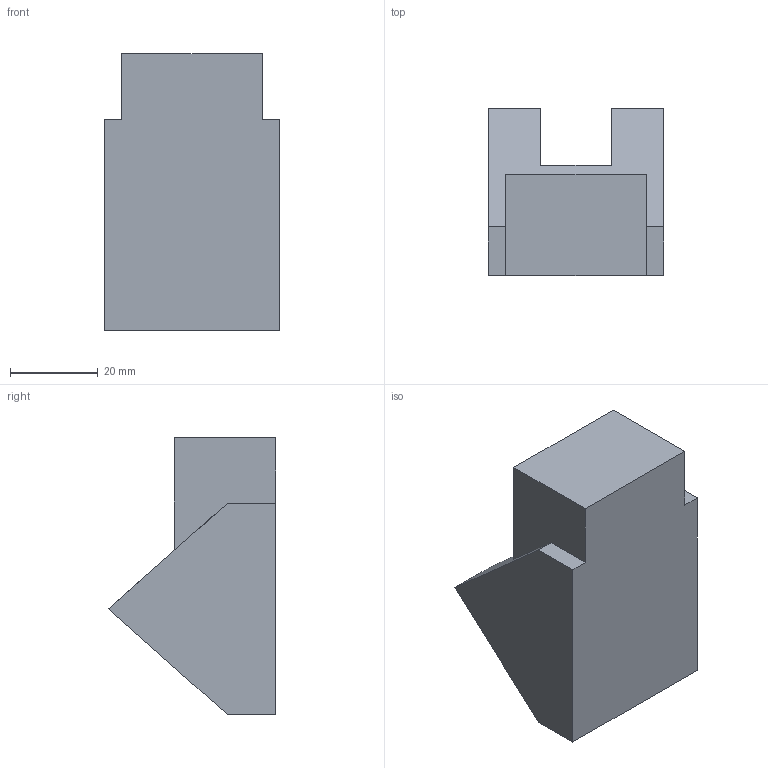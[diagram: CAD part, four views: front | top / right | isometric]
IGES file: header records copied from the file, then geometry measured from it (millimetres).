
Start section: SolidWorks IGES file using analytic representation for surfaces
Global section: file name: C:\Users\Ever Ortega Calderón\Documents\TEC\II S 2022\Física Computacional II\SOLID WORKS\Tarea 1\Ejercicio 2.IGS; native system: SolidWorks 2022; preprocessor: SolidWorks 2022; author: Ever Ortega Calderón; date: 220817.001741; units: millimetre
Bounding box: 40 x 38 x 63 mm (x, y, z)
Surface area: 10145.2 mm2 (no closed solid volume)
Topology: 0 solids, 0 shells, 15 faces, 78 edges, 78 vertices
Faces by surface type: bspline 15
